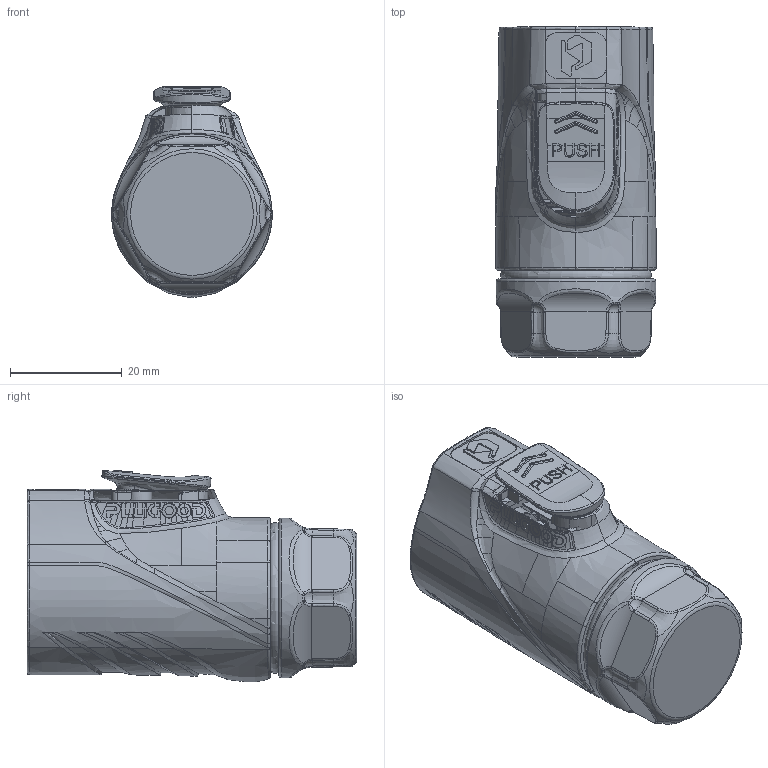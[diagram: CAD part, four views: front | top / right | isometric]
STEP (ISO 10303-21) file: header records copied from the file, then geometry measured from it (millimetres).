
FILE_DESCRIPTION (( 'STEP AP203' ), '1' );
FILE_NAME ('PLG20 7Ð¾²åÍ·.STEP', '2025-03-20T02:22:14', ( '' ), ( '' ), 'SwSTEP 2.0', 'SolidWorks 2024', '' );
FILE_SCHEMA (( 'CONFIG_CONTROL_DESIGN' ));
Products named in the file (1): PLG20 7芯插头
Bounding box: 28.77 x 59.1 x 37.93 mm (x, y, z)
Topology: 2 solids, 7 shells, 1378 faces, 3630 edges, 2283 vertices
Faces by surface type: bspline 760, plane 316, cylinder 161, torus 85, cone 46, sphere 10
Full cylindrical faces by diameter (mm): 1.5 x2, 1.519 x1, 1.6 x2, 1.7 x1, 1.9 x7, 2 x1, 2.05 x7, 2.5 x1, 2.65 x1, 4.5 x1, 16.2 x1, 17.5 x1, 17.6 x1, 19.2 x2, 19.3 x2, 19.4 x2, 22.134 x7, 28.6 x1
Entity records: 97521 total; most frequent: CARTESIAN_POINT 70734, ORIENTED_EDGE 6952, EDGE_CURVE 3476, DIRECTION 3237, VERTEX_POINT 2226, B_SPLINE_CURVE_WITH_KNOTS 1954, EDGE_LOOP 1490, FACE_OUTER_BOUND 1431
